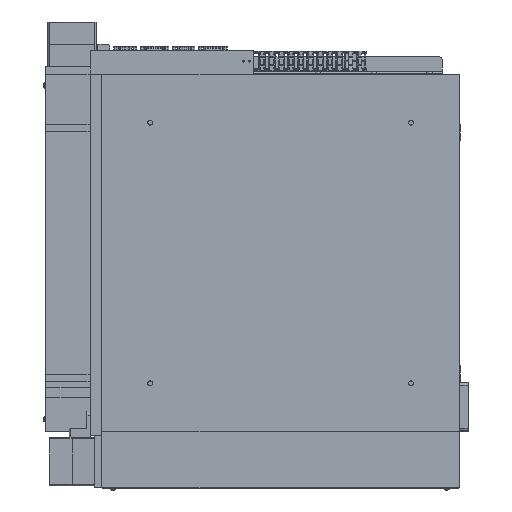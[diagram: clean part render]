
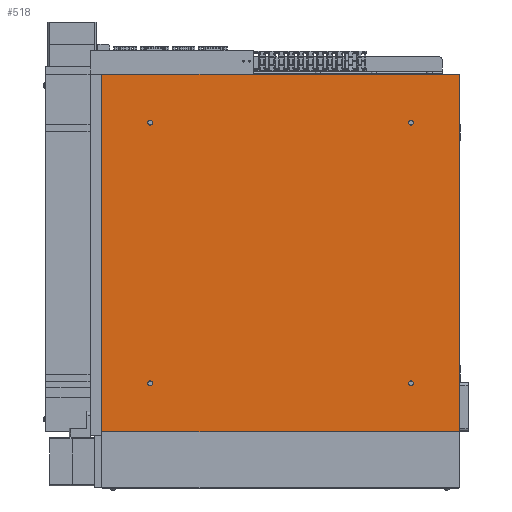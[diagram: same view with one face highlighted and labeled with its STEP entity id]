
A CAD part, front view. The second image highlights one B-rep face of the part: STEP entity #518.
In plain terms, the highlighted planar face has unit normal (0, -1, 0).
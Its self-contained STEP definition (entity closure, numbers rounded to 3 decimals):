
#518 = ADVANCED_FACE ( 'NONE', ( #93839, #7584, #61212, #5251, #4103 ), #71352, .F. ) ;
#1378 = CARTESIAN_POINT ( 'NONE',  ( -175., 0., 171.7 ) ) ;
#1899 = VERTEX_POINT ( 'NONE', #1378 ) ;
#3696 = DIRECTION ( 'NONE',  ( 0., 0., 1. ) ) ;
#4103 = FACE_OUTER_BOUND ( 'NONE', #13118, .T. ) ;
#4534 = VERTEX_POINT ( 'NONE', #62941 ) ;
#5251 = FACE_BOUND ( 'NONE', #21186, .T. ) ;
#5549 = LINE ( 'NONE', #34907, #18339 ) ;
#6192 = CIRCLE ( 'NONE', #49537, 3.3 ) ;
#7239 = CIRCLE ( 'NONE', #14542, 3.3 ) ;
#7334 = VERTEX_POINT ( 'NONE', #63922 ) ;
#7584 = FACE_BOUND ( 'NONE', #90973, .T. ) ;
#8403 = DIRECTION ( 'NONE',  ( 0., 0., 1. ) ) ;
#8953 = ORIENTED_EDGE ( 'NONE', *, *, #56088, .F. ) ;
#9070 = CARTESIAN_POINT ( 'NONE',  ( -175., 0., 178.3 ) ) ;
#9716 = CARTESIAN_POINT ( 'NONE',  ( 175., 0., -175. ) ) ;
#10864 = CARTESIAN_POINT ( 'NONE',  ( -175., 0., -178.3 ) ) ;
#12744 = DIRECTION ( 'NONE',  ( 0., 1., 0. ) ) ;
#13118 = EDGE_LOOP ( 'NONE', ( #92249, #87945, #70602, #8953 ) ) ;
#13961 = CARTESIAN_POINT ( 'NONE',  ( 175., 0., -171.7 ) ) ;
#14444 = CARTESIAN_POINT ( 'NONE',  ( -175., 0., 175. ) ) ;
#14542 = AXIS2_PLACEMENT_3D ( 'NONE', #9716, #24710, #45866 ) ;
#16087 = EDGE_LOOP ( 'NONE', ( #90317, #69658 ) ) ;
#18339 = VECTOR ( 'NONE', #93494, 1000. ) ;
#19342 = DIRECTION ( 'NONE',  ( 0., 1., 0. ) ) ;
#20352 = LINE ( 'NONE', #62158, #52990 ) ;
#20450 = AXIS2_PLACEMENT_3D ( 'NONE', #94006, #41561, #93694 ) ;
#21186 = EDGE_LOOP ( 'NONE', ( #45223, #42128 ) ) ;
#21760 = ORIENTED_EDGE ( 'NONE', *, *, #51446, .T. ) ;
#22575 = EDGE_CURVE ( 'NONE', #76747, #50144, #73210, .T. ) ;
#22938 = VERTEX_POINT ( 'NONE', #54860 ) ;
#24230 = VERTEX_POINT ( 'NONE', #9070 ) ;
#24570 = DIRECTION ( 'NONE',  ( 0., 0., 1. ) ) ;
#24710 = DIRECTION ( 'NONE',  ( 0., 1., 0. ) ) ;
#26232 = CARTESIAN_POINT ( 'NONE',  ( 0., 0., 0. ) ) ;
#27465 = DIRECTION ( 'NONE',  ( 0., 0., 1. ) ) ;
#27514 = EDGE_CURVE ( 'NONE', #88769, #84997, #54985, .T. ) ;
#28280 = EDGE_CURVE ( 'NONE', #1899, #24230, #68703, .T. ) ;
#29056 = CARTESIAN_POINT ( 'NONE',  ( -175., 0., 175. ) ) ;
#32570 = DIRECTION ( 'NONE',  ( -1., 0., 0. ) ) ;
#32823 = DIRECTION ( 'NONE',  ( 0., 0., 1. ) ) ;
#33897 = CARTESIAN_POINT ( 'NONE',  ( -175., 0., -175. ) ) ;
#34484 = EDGE_CURVE ( 'NONE', #51138, #47287, #20352, .T. ) ;
#34640 = CARTESIAN_POINT ( 'NONE',  ( 240., 0., -240. ) ) ;
#34907 = CARTESIAN_POINT ( 'NONE',  ( -240., 0., 240. ) ) ;
#35273 = EDGE_CURVE ( 'NONE', #24230, #1899, #6192, .T. ) ;
#36278 = CARTESIAN_POINT ( 'NONE',  ( -240., 0., -240. ) ) ;
#36684 = CARTESIAN_POINT ( 'NONE',  ( 175., 0., -178.3 ) ) ;
#37818 = LINE ( 'NONE', #67648, #42458 ) ;
#38922 = EDGE_CURVE ( 'NONE', #7334, #39748, #44543, .T. ) ;
#39748 = VERTEX_POINT ( 'NONE', #58054 ) ;
#41561 = DIRECTION ( 'NONE',  ( 0., 1., 0. ) ) ;
#42128 = ORIENTED_EDGE ( 'NONE', *, *, #38922, .T. ) ;
#42458 = VECTOR ( 'NONE', #8403, 1000. ) ;
#43389 = LINE ( 'NONE', #88607, #67869 ) ;
#43899 = EDGE_LOOP ( 'NONE', ( #45089, #85914 ) ) ;
#44543 = CIRCLE ( 'NONE', #79769, 3.3 ) ;
#45089 = ORIENTED_EDGE ( 'NONE', *, *, #35273, .T. ) ;
#45223 = ORIENTED_EDGE ( 'NONE', *, *, #96086, .T. ) ;
#45866 = DIRECTION ( 'NONE',  ( 0., 0., 1. ) ) ;
#47287 = VERTEX_POINT ( 'NONE', #36278 ) ;
#47537 = AXIS2_PLACEMENT_3D ( 'NONE', #61669, #75934, #24570 ) ;
#49537 = AXIS2_PLACEMENT_3D ( 'NONE', #14444, #88703, #81190 ) ;
#50144 = VERTEX_POINT ( 'NONE', #13961 ) ;
#51138 = VERTEX_POINT ( 'NONE', #34640 ) ;
#51446 = EDGE_CURVE ( 'NONE', #84997, #88769, #54418, .T. ) ;
#51802 = DIRECTION ( 'NONE',  ( 0., 0., 1. ) ) ;
#52291 = EDGE_CURVE ( 'NONE', #47287, #22938, #37818, .T. ) ;
#52990 = VECTOR ( 'NONE', #32570, 1000. ) ;
#53204 = EDGE_CURVE ( 'NONE', #4534, #51138, #43389, .T. ) ;
#53616 = CIRCLE ( 'NONE', #47537, 3.3 ) ;
#54418 = CIRCLE ( 'NONE', #71797, 3.3 ) ;
#54860 = CARTESIAN_POINT ( 'NONE',  ( -240., 0., 240. ) ) ;
#54985 = CIRCLE ( 'NONE', #68112, 3.3 ) ;
#56088 = EDGE_CURVE ( 'NONE', #22938, #4534, #5549, .T. ) ;
#57374 = CARTESIAN_POINT ( 'NONE',  ( 175., 0., 175. ) ) ;
#58054 = CARTESIAN_POINT ( 'NONE',  ( 175., 0., 178.3 ) ) ;
#58500 = EDGE_CURVE ( 'NONE', #50144, #76747, #7239, .T. ) ;
#61212 = FACE_BOUND ( 'NONE', #16087, .T. ) ;
#61669 = CARTESIAN_POINT ( 'NONE',  ( 175., 0., 175. ) ) ;
#62158 = CARTESIAN_POINT ( 'NONE',  ( -240., 0., -240. ) ) ;
#62941 = CARTESIAN_POINT ( 'NONE',  ( 240., 0., 240. ) ) ;
#63922 = CARTESIAN_POINT ( 'NONE',  ( 175., 0., 171.7 ) ) ;
#66464 = DIRECTION ( 'NONE',  ( 0., 0., -1. ) ) ;
#67648 = CARTESIAN_POINT ( 'NONE',  ( -240., 0., -240. ) ) ;
#67869 = VECTOR ( 'NONE', #66464, 1000. ) ;
#68112 = AXIS2_PLACEMENT_3D ( 'NONE', #91731, #84859, #32823 ) ;
#68640 = ORIENTED_EDGE ( 'NONE', *, *, #27514, .T. ) ;
#68703 = CIRCLE ( 'NONE', #73751, 3.3 ) ;
#69658 = ORIENTED_EDGE ( 'NONE', *, *, #22575, .T. ) ;
#70602 = ORIENTED_EDGE ( 'NONE', *, *, #53204, .F. ) ;
#71219 = DIRECTION ( 'NONE',  ( 0., 0., 1. ) ) ;
#71352 = PLANE ( 'NONE',  #73569 ) ;
#71797 = AXIS2_PLACEMENT_3D ( 'NONE', #33897, #92785, #71219 ) ;
#73210 = CIRCLE ( 'NONE', #20450, 3.3 ) ;
#73569 = AXIS2_PLACEMENT_3D ( 'NONE', #26232, #19342, #3696 ) ;
#73751 = AXIS2_PLACEMENT_3D ( 'NONE', #29056, #87942, #51802 ) ;
#75934 = DIRECTION ( 'NONE',  ( 0., 1., 0. ) ) ;
#76747 = VERTEX_POINT ( 'NONE', #36684 ) ;
#79769 = AXIS2_PLACEMENT_3D ( 'NONE', #57374, #12744, #27465 ) ;
#81190 = DIRECTION ( 'NONE',  ( 0., 0., 1. ) ) ;
#83972 = CARTESIAN_POINT ( 'NONE',  ( -175., 0., -171.7 ) ) ;
#84859 = DIRECTION ( 'NONE',  ( 0., 1., 0. ) ) ;
#84997 = VERTEX_POINT ( 'NONE', #83972 ) ;
#85914 = ORIENTED_EDGE ( 'NONE', *, *, #28280, .T. ) ;
#87942 = DIRECTION ( 'NONE',  ( 0., 1., 0. ) ) ;
#87945 = ORIENTED_EDGE ( 'NONE', *, *, #34484, .F. ) ;
#88607 = CARTESIAN_POINT ( 'NONE',  ( 240., 0., -240. ) ) ;
#88703 = DIRECTION ( 'NONE',  ( 0., 1., 0. ) ) ;
#88769 = VERTEX_POINT ( 'NONE', #10864 ) ;
#90317 = ORIENTED_EDGE ( 'NONE', *, *, #58500, .T. ) ;
#90973 = EDGE_LOOP ( 'NONE', ( #21760, #68640 ) ) ;
#91731 = CARTESIAN_POINT ( 'NONE',  ( -175., 0., -175. ) ) ;
#92249 = ORIENTED_EDGE ( 'NONE', *, *, #52291, .F. ) ;
#92785 = DIRECTION ( 'NONE',  ( 0., 1., 0. ) ) ;
#93494 = DIRECTION ( 'NONE',  ( 1., 0., 0. ) ) ;
#93694 = DIRECTION ( 'NONE',  ( 0., 0., 1. ) ) ;
#93839 = FACE_BOUND ( 'NONE', #43899, .T. ) ;
#94006 = CARTESIAN_POINT ( 'NONE',  ( 175., 0., -175. ) ) ;
#96086 = EDGE_CURVE ( 'NONE', #39748, #7334, #53616, .T. ) ;
